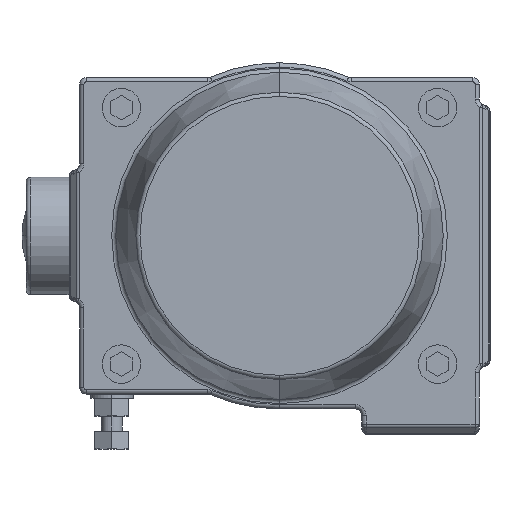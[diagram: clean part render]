
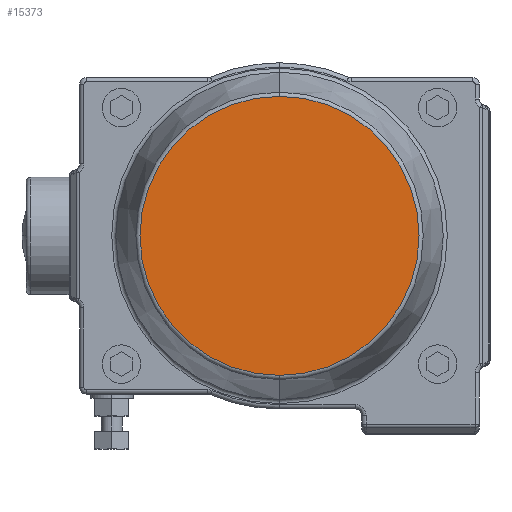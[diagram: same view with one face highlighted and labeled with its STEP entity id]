
A CAD part, left-side view. The second image highlights one B-rep face of the part: STEP entity #15373.
In plain terms, the highlighted planar face has unit normal (-1, 0, 0).
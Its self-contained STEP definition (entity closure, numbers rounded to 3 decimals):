
#100 = VERTEX_POINT ( 'NONE', #4765 ) ;
#937 = CIRCLE ( 'NONE', #14553, 65.305 ) ;
#1103 = EDGE_LOOP ( 'NONE', ( #5279, #6810 ) ) ;
#1856 = FACE_OUTER_BOUND ( 'NONE', #1103, .T. ) ;
#2361 = PLANE ( 'NONE',  #7270 ) ;
#3225 = DIRECTION ( 'NONE',  ( 0., 0., 1. ) ) ;
#4765 = CARTESIAN_POINT ( 'NONE',  ( -237., 0., 65.305 ) ) ;
#5279 = ORIENTED_EDGE ( 'NONE', *, *, #12991, .T. ) ;
#6150 = CARTESIAN_POINT ( 'NONE',  ( -237., 0., 0. ) ) ;
#6810 = ORIENTED_EDGE ( 'NONE', *, *, #12637, .T. ) ;
#7270 = AXIS2_PLACEMENT_3D ( 'NONE', #11205, #8658, #15216 ) ;
#8155 = DIRECTION ( 'NONE',  ( -1., 0., 0. ) ) ;
#8658 = DIRECTION ( 'NONE',  ( -1., 0., 0. ) ) ;
#8713 = DIRECTION ( 'NONE',  ( 0., 0., 1. ) ) ;
#9650 = VERTEX_POINT ( 'NONE', #14187 ) ;
#9761 = DIRECTION ( 'NONE',  ( -1., 0., 0. ) ) ;
#11077 = AXIS2_PLACEMENT_3D ( 'NONE', #6150, #9761, #8713 ) ;
#11205 = CARTESIAN_POINT ( 'NONE',  ( -237., 0., 0. ) ) ;
#12637 = EDGE_CURVE ( 'NONE', #9650, #100, #937, .T. ) ;
#12991 = EDGE_CURVE ( 'NONE', #100, #9650, #13164, .T. ) ;
#13164 = CIRCLE ( 'NONE', #11077, 65.305 ) ;
#14187 = CARTESIAN_POINT ( 'NONE',  ( -237., 0., -65.305 ) ) ;
#14553 = AXIS2_PLACEMENT_3D ( 'NONE', #16580, #8155, #3225 ) ;
#15216 = DIRECTION ( 'NONE',  ( 0., 0., 1. ) ) ;
#15373 = ADVANCED_FACE ( 'NONE', ( #1856 ), #2361, .T. ) ;
#16580 = CARTESIAN_POINT ( 'NONE',  ( -237., 0., 0. ) ) ;
